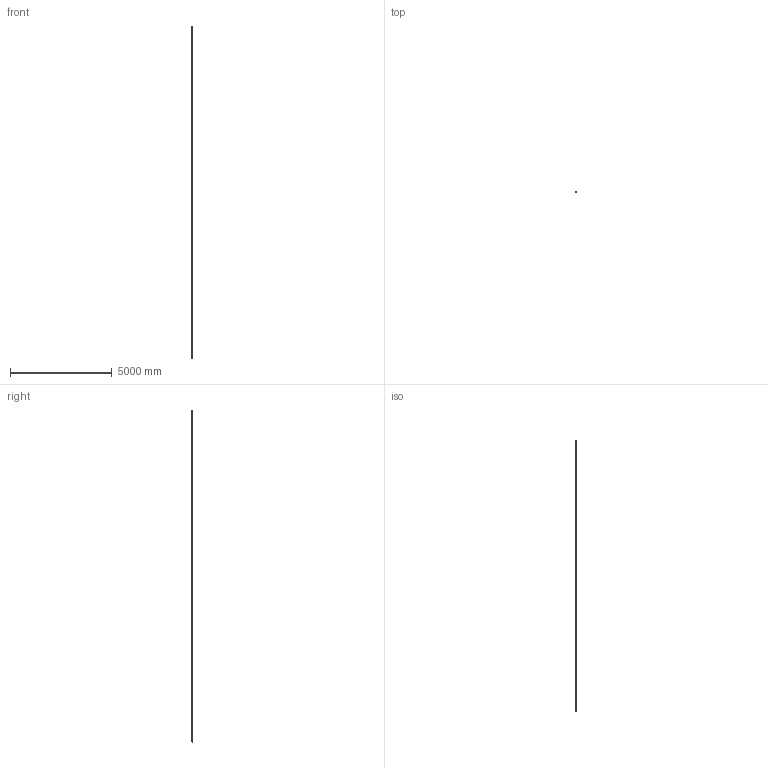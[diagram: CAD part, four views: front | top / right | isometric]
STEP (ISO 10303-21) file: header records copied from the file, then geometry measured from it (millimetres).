
FILE_DESCRIPTION(('Creo Elements/Direct Modeling STEP Export'),'2;1');
FILE_NAME('L-160.stp','2011-11-29T13:21:30',(''),(''),'Creo Elements/Direct Modeling STEP processor for AP214 (Solid Model)','Creo Elements/Direct Modeling 17.0C 05-Feb-2011 (C) Parametric Technology GmbH','');
FILE_SCHEMA(('AUTOMOTIVE_DESIGN { 1 0 10303 214 1 1 1 1 }'));
Length unit declared in the file: millimetre
Products named in the file (5): Modulos_intermedio_(FL-14).8; CABEZA; Modulo_der_(20-ET); Modulo_izq_(L-KT); L-160
Assembly tree (12 placements, depth 2):
  L-160
    Modulo_izq_(L-KT)
    Modulos_intermedio_(FL-14).8  x9
    Modulo_der_(20-ET)
    CABEZA
Bounding box: 51.5 x 87.95 x 16349.1 mm (x, y, z)
Volume: 35796660.5 mm3; surface area: 4812121.5 mm2
Topology: 33 solids, 136 shells, 7728 faces, 21460 edges, 13733 vertices
Faces by surface type: cylinder 3402, plane 2968, cone 582, torus 372, bspline 278, extrusion 100, sphere 26
Entity records: 130422 total; most frequent: CARTESIAN_POINT 38064, ORIENTED_EDGE 19494, DIRECTION 17445, EDGE_CURVE 9727, VERTEX_POINT 6307, AXIS2_PLACEMENT_3D 6206, VECTOR 5033, LINE 5013
